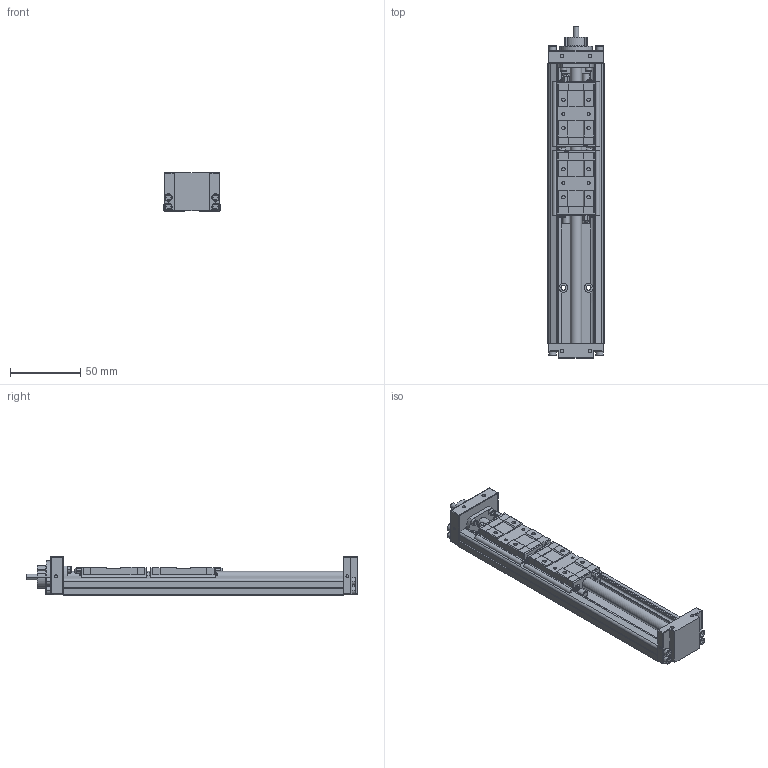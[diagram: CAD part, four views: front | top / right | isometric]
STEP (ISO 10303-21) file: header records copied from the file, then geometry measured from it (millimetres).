
FILE_DESCRIPTION(('no description'),'unknown implementation level');
FILE_NAME('KK4001P200A2H0000_FILE_9.stp',' ',('HIWIN GmbH'),('CADClick - KiM GmbH - www.kimweb.de'),'unknown preprocess','ACIS','unknown authorization');
FILE_SCHEMA(('automotive_design'));
Length unit declared in the file: millimetre
Products named in the file (3): KK4001P200A2H0000_FILE_1; KK40_FILE; KK4001P200A2H0000_FILE
Bounding box: 40 x 236.5 x 27.5 mm (x, y, z)
Volume: 119009.9 mm3; surface area: 52994.5 mm2
Topology: 3 solids, 19 shells, 1066 faces, 2738 edges, 1764 vertices
Faces by surface type: plane 687, cylinder 323, torus 52, sphere 4
Entity records: 64428 total; most frequent: CARTESIAN_POINT 6679, DIRECTION 5662, STYLED_ITEM 5571, PRESENTATION_STYLE_ASSIGNMENT 5571, COLOUR_RGB 5571, ORIENTED_EDGE 5476, EDGE_CURVE 2738, CURVE_STYLE 2738
